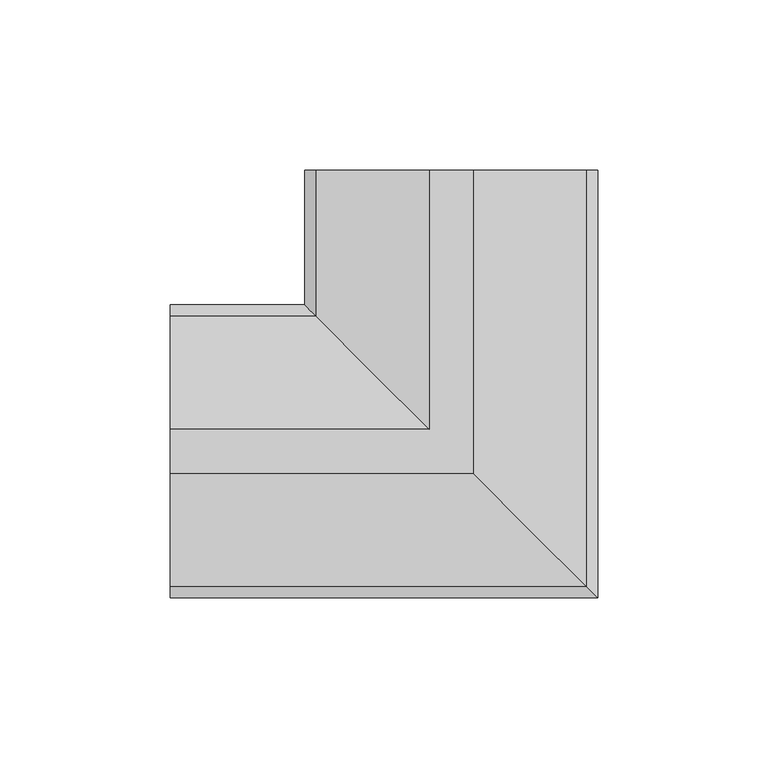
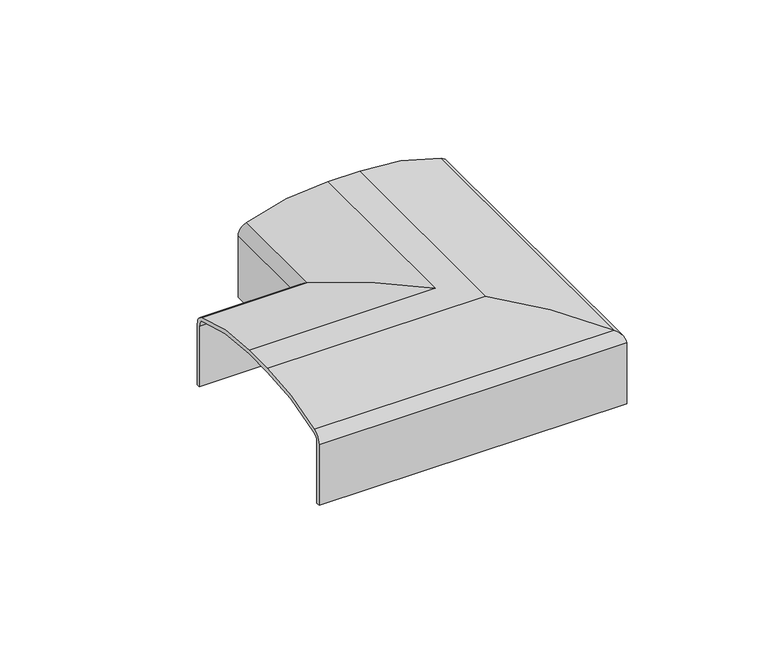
"""IFC4 building model written with IfcOpenShell, lengths in millimetres: proxy geometry, Innore top rail 81x35 corner element : Innore top rail 81x35 element."""

from ifc_helpers import new_model, si_unit, frame, origin, place, context, project, spatial, polyline, circle_curve, ellipse_curve, source, transform, mapped, element, save
from ifc_brep_helpers import plane_surface, cylinder_surface, revolved_surface, advanced_brep


def generic_models_224f447f(model_context):
    return source(origin(), model_context, "Body", "AdvancedBrep", [
        advanced_brep(
        [(43.0005548, 82.500555, -9.2098824), (43.0005548, 82.500555, -35.4217549), (41.5005548, 82.500555, -35.4217549), (41.5005548, 82.500555, -9.2881274), (39.2447947, 82.500555, -6.0167566), (6.5005548, 82.500555, 1e-07), (-6.4994452, 82.500555, 0.0), (-23.1456356, 82.500555, -1.5166706), (-39.223325, 82.500555, -6.0090156), (-41.4994452, 82.500555, -9.3098787), (-41.4994452, 82.500555, -35.4217549), (-42.9994452, 82.500555, -35.4217549), (-42.9994452, 82.500555, -9.2098824), (-39.7769308, 82.500555, -4.5364955), (-6.4994452, 82.500555, 1.5782451), (6.4994452, 82.500555, 1.5782451), (39.7769308, 82.500555, -4.5364955), (-82.4684984, -42.9988902, -9.2098824), (-82.4684984, -39.7763758, -4.5364955), (-82.4684984, -6.4988902, 1.5782451), (-82.4684984, 6.5000001, 1.5782451), (-82.4684984, 39.7774857, -4.5364955), (-82.4684984, 43.0000001, -9.2098824), (-82.4684984, 43.0000001, -35.4217549), (-82.4684984, 41.5000001, -35.4217549), (-82.4684984, 41.5000001, -9.3098787), (-82.4684984, 39.22388, -6.0090156), (-82.4684984, 23.1461903, -1.5166706), (-82.4684984, 6.5000001, 0.0), (-82.4684984, -6.4999999, 0.0), (-82.4684984, -39.2442398, -6.0167566), (-82.4684984, -41.4999999, -9.2881274), (-82.4684984, -41.4999999, -35.4217549), (-82.4684984, -42.9999999, -35.4217549), (43.0005548, -42.9988902, -9.2098824), (43.0005548, -42.9999999, -35.4217549), (41.5005548, -41.4999999, -35.4217549), (41.5005548, -41.4999999, -9.2881274), (39.2447947, -39.2442398, -6.0167566), (6.5005548, -6.4999999, 1e-07), (-6.4994452, 6.5000001, 0.0), (-23.1456356, 23.1461906, -1.5166706), (-39.223325, 39.22388, -6.0090156), (-41.4994452, 41.5000001, -9.3098787), (-41.4994452, 41.5000001, -35.4217549), (-42.9994452, 43.0000001, -35.4217549), (-42.9994452, 43.0000001, -9.2098824), (-39.7769308, 39.7774857, -4.5364955), (-6.4994452, 6.5000001, 1.5782451), (6.4994452, -6.4988902, 1.5782451), (39.7769308, -39.7763758, -4.5364955)],
        [
            (0, 1),
            (1, 2),
            (2, 3),
            (3, 4, circle_curve(frame((38.0005548, 82.500555, -9.2881274), z_axis=(0.0, -1.0, 0.0), x_axis=(1.0, 0.0, 0.0)), 3.5)),
            (4, 5, circle_curve(frame((6.5005548, 82.500555, -92.1083132), z_axis=(0.0, -1.0, 0.0), x_axis=(1.0, 0.0, 0.0)), 92.1083133)),
            (5, 6),
            (6, 7, circle_curve(frame((-6.4994452, 82.500555, -92.1083165), z_axis=(0.0, -1.0, 0.0), x_axis=(1.0, 0.0, 0.0)), 92.1083165)),
            (7, 8, circle_curve(frame((-6.4994452, 82.500555, -92.1083133), z_axis=(0.0, -1.0, 0.0), x_axis=(1.0, 0.0, 0.0)), 92.1083133)),
            (8, 9, circle_curve(frame((-38.3495818, 82.500555, -9.0466922), z_axis=(0.0, -1.0, 0.0), x_axis=(1.0, 0.0, 0.0)), 3.1608395)),
            (9, 10),
            (10, 11),
            (11, 12),
            (12, 13, circle_curve(frame((-37.9994452, 82.500555, -9.2098824), z_axis=(0.0, 1.0, 0.0), x_axis=(1.0, 0.0, 0.0)), 5.0)),
            (13, 14, circle_curve(frame((-6.4994452, 82.500555, -92.0300682), z_axis=(0.0, 1.0, 0.0), x_axis=(1.0, 0.0, 0.0)), 93.6083133)),
            (14, 15),
            (15, 16, circle_curve(frame((6.4994452, 82.500555, -92.0300682), z_axis=(0.0, 1.0, 0.0), x_axis=(1.0, 0.0, 0.0)), 93.6083133)),
            (16, 0, circle_curve(frame((37.9994452, 82.500555, -9.2098824), z_axis=(0.0, 1.0, 0.0), x_axis=(1.0, 0.0, 0.0)), 5.0)),
            (17, 18, circle_curve(frame((-82.4684984, -37.9988902, -9.2098824), z_axis=(-1.0, 0.0, 0.0), x_axis=(0.0, -1.0, 0.0)), 5.0)),
            (18, 19, circle_curve(frame((-82.4684984, -6.4988902, -92.0300682), z_axis=(-1.0, 0.0, 0.0), x_axis=(0.0, -1.0, 0.0)), 93.6083133)),
            (19, 20),
            (20, 21, circle_curve(frame((-82.4684984, 6.5000001, -92.0300682), z_axis=(-1.0, 0.0, 0.0), x_axis=(0.0, -1.0, 0.0)), 93.6083133)),
            (21, 22, circle_curve(frame((-82.4684984, 38.0000001, -9.2098824), z_axis=(-1.0, 0.0, 0.0), x_axis=(0.0, -1.0, 0.0)), 5.0)),
            (22, 23),
            (23, 24),
            (24, 25),
            (25, 26, circle_curve(frame((-82.4684984, 38.3501368, -9.0466922), z_axis=(1.0, 0.0, 0.0), x_axis=(0.0, -1.0, 0.0)), 3.1608395)),
            (26, 27, circle_curve(frame((-82.4684984, 6.5000001, -92.1083133), z_axis=(1.0, 0.0, 0.0), x_axis=(0.0, -1.0, 0.0)), 92.1083133)),
            (27, 28, circle_curve(frame((-82.4684984, 6.5000001, -92.1083165), z_axis=(1.0, 0.0, 0.0), x_axis=(0.0, -1.0, 0.0)), 92.1083165)),
            (28, 29),
            (29, 30, circle_curve(frame((-82.4684984, -6.4999999, -92.1083132), z_axis=(1.0, 0.0, 0.0), x_axis=(0.0, -1.0, 0.0)), 92.1083133)),
            (30, 31, circle_curve(frame((-82.4684984, -37.9999999, -9.2881274), z_axis=(1.0, 0.0, 0.0), x_axis=(0.0, -1.0, 0.0)), 3.5)),
            (31, 32),
            (32, 33),
            (33, 17),
            (0, 34),
            (34, 35),
            (35, 1),
            (35, 33),
            (32, 36),
            (36, 2),
            (36, 37),
            (37, 3),
            (37, 38, ellipse_curve(frame((38.0005548, -37.9999999, -9.2881274), z_axis=(-0.7071067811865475, -0.7071067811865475, 0.0), x_axis=(0.7071067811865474, -0.7071067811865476, 0.0)), 4.9497475, 3.5)),
            (38, 4),
            (38, 39, ellipse_curve(frame((6.5005548, -6.4999999, -92.1083132), z_axis=(-0.7071067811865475, -0.7071067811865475, 0.0), x_axis=(0.7071067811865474, -0.7071067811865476, 0.0)), 130.2608259, 92.1083133)),
            (39, 5),
            (39, 29),
            (28, 40),
            (40, 6),
            (40, 41, ellipse_curve(frame((-6.4994452, 6.5000001, -92.1083165), z_axis=(-0.7071067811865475, -0.7071067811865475, 0.0), x_axis=(0.7071067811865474, -0.7071067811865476, 0.0)), 130.2608304, 92.1083165)),
            (41, 7),
            (41, 42, ellipse_curve(frame((-6.4994452, 6.5000001, -92.1083133), z_axis=(-0.7071067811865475, -0.7071067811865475, 0.0), x_axis=(0.7071067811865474, -0.7071067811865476, 0.0)), 130.2608259, 92.1083133)),
            (42, 8),
            (42, 43, ellipse_curve(frame((-38.3495818, 38.3501368, -9.0466922), z_axis=(-0.7071067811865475, -0.7071067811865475, 0.0), x_axis=(0.7071067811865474, -0.7071067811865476, 0.0)), 4.4701021, 3.1608395)),
            (43, 9),
            (43, 44),
            (44, 10),
            (44, 24),
            (23, 45),
            (45, 11),
            (45, 46),
            (46, 12),
            (46, 47, ellipse_curve(frame((-37.9994452, 38.0000001, -9.2098824), z_axis=(0.7071067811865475, 0.7071067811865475, 0.0), x_axis=(-0.7071067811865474, 0.7071067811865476, 0.0)), 7.0710678, 5.0)),
            (47, 13),
            (47, 48, ellipse_curve(frame((-6.4994452, 6.5000001, -92.0300682), z_axis=(0.7071067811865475, 0.7071067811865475, 0.0), x_axis=(-0.7071067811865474, 0.7071067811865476, 0.0)), 132.3821462, 93.6083133)),
            (48, 14),
            (48, 20),
            (19, 49),
            (49, 15),
            (34, 17),
            (31, 37),
            (30, 38),
            (27, 41),
            (26, 42),
            (25, 43),
            (22, 46),
            (21, 47),
            (16, 50),
            (50, 34, ellipse_curve(frame((37.9994452, -37.9988902, -9.2098824), z_axis=(0.7071067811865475, 0.7071067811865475, 0.0), x_axis=(-0.7071067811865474, 0.7071067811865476, 0.0)), 7.0710678, 5.0)),
            (50, 18),
            (49, 50, ellipse_curve(frame((6.4994452, -6.4988902, -92.0300682), z_axis=(0.7071067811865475, 0.7071067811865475, 0.0), x_axis=(-0.7071067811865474, 0.7071067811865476, 0.0)), 132.3821462, 93.6083133)),
        ],
        [
            plane_surface(frame((0.0, 82.500555, 0.0), z_axis=(0.0, 1.0, 0.0), x_axis=(0.0, 0.0, 1.0))),
            plane_surface(frame((-82.4684984, 0.000555, 0.0), z_axis=(-1.0, 0.0, 0.0), x_axis=(0.0, 0.0, 1.0))),
            plane_surface(frame((43.0005548, 82.500555, -9.2098824), z_axis=(1.0, 0.0, 0.0), x_axis=(0.0, -1.0, 0.0))),
            plane_surface(frame((43.0005548, 82.500555, -35.4217549), z_axis=(0.0, 0.0, -1.0), x_axis=(0.0, -1.0, 0.0))),
            plane_surface(frame((41.5005548, 82.500555, -35.4217549), z_axis=(-1.0, 0.0, 0.0), x_axis=(0.0, -1.0, 0.0))),
            revolved_surface(polyline([(41.5005548, -41.49999992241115, -9.2881274), (41.5005548, 82.500555, -9.2881274)]), (38.0005548, 82.500555, -9.2881274), (0.0, -1.0, 0.0)),
            revolved_surface(polyline([(98.60886810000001, -98.60831321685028, -92.1083132), (98.60886810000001, 85.60831341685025, -92.1083132)]), (6.5005548, 82.500555, -92.1083132), (0.0, -1.0, 0.0)),
            plane_surface(frame((6.5005548, 82.500555, 0.0), z_axis=(0.0, 0.0, -1.0), x_axis=(0.0, -1.0, 0.0))),
            revolved_surface(polyline([(85.6088713, -85.60831639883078, -92.1083165), (85.6088713, 98.60831659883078, -92.1083165)]), (-6.4994452, 82.500555, -92.1083165), (0.0, -1.0, 0.0)),
            revolved_surface(polyline([(85.60886810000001, -85.60831321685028, -92.1083133), (85.60886810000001, 98.60831341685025, -92.1083133)]), (-6.4994452, 82.500555, -92.1083133), (0.0, -1.0, 0.0)),
            revolved_surface(polyline([(-35.1887423, 35.18929729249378, -9.0466922), (-35.1887423, 82.500555, -9.0466922)]), (-38.3495818, 82.500555, -9.0466922), (0.0, -1.0, 0.0)),
            plane_surface(frame((-41.4994452, 82.500555, -9.3098787), z_axis=(1.0, 0.0, 0.0), x_axis=(0.0, -1.0, 0.0))),
            plane_surface(frame((-41.4994452, 82.500555, -35.4217549), z_axis=(0.0, 0.0, -1.0), x_axis=(0.0, -1.0, 0.0))),
            plane_surface(frame((-42.9994452, 82.500555, -35.4217549), z_axis=(-1.0, 0.0, 0.0), x_axis=(0.0, -1.0, 0.0))),
            cylinder_surface(frame((-37.9994452, 82.500555, -9.2098824), z_axis=(0.0, 1.0, 0.0), x_axis=(1.0, 0.0, 0.0)), 5.0),
            cylinder_surface(frame((-6.4994452, 82.500555, -92.0300682), z_axis=(0.0, 1.0, 0.0), x_axis=(1.0, 0.0, 0.0)), 93.6083133),
            plane_surface(frame((-6.4994452, 82.500555, 1.5782451), z_axis=(0.0, 0.0, 1.0), x_axis=(0.0, -1.0, 0.0))),
            plane_surface(frame((43.0005548, -42.9999999, -9.2098824), z_axis=(0.0, -1.0, 0.0), x_axis=(-1.0, 0.0, 0.0))),
            plane_surface(frame((41.5005548, -41.4999999, -35.4217549), z_axis=(0.0, 1.0, 0.0), x_axis=(-1.0, 0.0, 0.0))),
            revolved_surface(polyline([(-82.4684984, -41.4999999, -9.2881274), (41.50055482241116, -41.4999999, -9.2881274)]), (0.0, -37.9999999, -9.2881274), (-1.0, 0.0, 0.0)),
            revolved_surface(polyline([(-85.60775851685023, -98.60831320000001, -92.1083132), (98.60886811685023, -98.60831320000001, -92.1083132)]), (0.0, -6.4999999, -92.1083132), (-1.0, 0.0, 0.0)),
            revolved_surface(polyline([(-98.60776169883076, -85.6083164, -92.1083165), (85.60887129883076, -85.6083164, -92.1083165)]), (0.0, 6.5000001, -92.1083165), (-1.0, 0.0, 0.0)),
            revolved_surface(polyline([(-98.60775851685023, -85.60831320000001, -92.1083133), (85.60886811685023, -85.60831320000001, -92.1083133)]), (0.0, 6.5000001, -92.1083133), (-1.0, 0.0, 0.0)),
            revolved_surface(polyline([(-82.4684984, 35.1892973, -9.0466922), (-35.18874229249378, 35.1892973, -9.0466922)]), (0.0, 38.3501368, -9.0466922), (-1.0, 0.0, 0.0)),
            plane_surface(frame((-41.4994452, 41.5000001, -9.3098787), z_axis=(0.0, -1.0, 0.0), x_axis=(-1.0, 0.0, 0.0))),
            plane_surface(frame((-42.9994452, 43.0000001, -35.4217549), z_axis=(0.0, 1.0, 0.0), x_axis=(-1.0, 0.0, 0.0))),
            cylinder_surface(frame((0.0, 38.0000001, -9.2098824), z_axis=(1.0, 0.0, 0.0), x_axis=(0.0, -1.0, 0.0)), 5.0),
            cylinder_surface(frame((0.0, 6.5000001, -92.0300682), z_axis=(1.0, 0.0, 0.0), x_axis=(0.0, -1.0, 0.0)), 93.6083133),
            cylinder_surface(frame((37.9994452, 82.500555, -9.2098824), z_axis=(0.0, 1.0, 0.0), x_axis=(1.0, 0.0, 0.0)), 5.0),
            cylinder_surface(frame((0.0, -37.9988902, -9.2098824), z_axis=(1.0, 0.0, 0.0), x_axis=(0.0, -1.0, 0.0)), 5.0),
            cylinder_surface(frame((6.4994452, 82.500555, -92.0300682), z_axis=(0.0, 1.0, 0.0), x_axis=(1.0, 0.0, 0.0)), 93.6083133),
            cylinder_surface(frame((0.0, -6.4988902, -92.0300682), z_axis=(1.0, 0.0, 0.0), x_axis=(0.0, -1.0, 0.0)), 93.6083133),
        ],
        [
            (0, [[1, 2, 3, 4, 5, 6, 7, 8, 9, 10, 11, 12, 13, 14, 15, 16, 17]]),
            (1, [[18, 19, 20, 21, 22, 23, 24, 25, 26, 27, 28, 29, 30, 31, 32, 33, 34]]),
            (2, [[-1, 35, 36, 37]]),
            (3, [[-2, -37, 38, -33, 39, 40]]),
            (4, [[-3, -40, 41, 42]]),
            (5, [[-4, -42, 43, 44]]),
            (6, [[-5, -44, 45, 46]]),
            (7, [[-6, -46, 47, -29, 48, 49]]),
            (8, [[-7, -49, 50, 51]]),
            (9, [[-8, -51, 52, 53]]),
            (10, [[-9, -53, 54, 55]]),
            (11, [[-10, -55, 56, 57]]),
            (12, [[-11, -57, 58, -24, 59, 60]]),
            (13, [[-12, -60, 61, 62]]),
            (14, [[-13, -62, 63, 64]]),
            (15, [[-14, -64, 65, 66]]),
            (16, [[-15, -66, 67, -20, 68, 69]]),
            (17, [[-36, 70, -34, -38]]),
            (18, [[-41, -39, -32, 71]]),
            (19, [[-43, -71, -31, 72]]),
            (20, [[-45, -72, -30, -47]]),
            (21, [[-50, -48, -28, 73]]),
            (22, [[-52, -73, -27, 74]]),
            (23, [[-54, -74, -26, 75]]),
            (24, [[-56, -75, -25, -58]]),
            (25, [[-61, -59, -23, 76]]),
            (26, [[-63, -76, -22, 77]]),
            (27, [[-65, -77, -21, -67]]),
            (28, [[-17, 78, 79, -35]]),
            (29, [[-79, 80, -18, -70]]),
            (30, [[-16, -69, 81, -78]]),
            (31, [[-81, -68, -19, -80]]),
        ],
    ),
    ])


if __name__ == "__main__":
    model = new_model("IFC4")
    model_context = context("Model", 3, world=origin())
    ifc_project = project(units=[si_unit("LENGTHUNIT", "METRE", prefix="MILLI")], contexts=[model_context])
    site = spatial("IfcSite", under=ifc_project)
    building = spatial("IfcBuilding", under=site)
    placement = place(None, origin())
    generic_models_shape = generic_models_224f447f(model_context)
    element("IfcBuildingElementProxy", 1, Name="Innore top rail 81x35 corner element : Innore top rail 81x35 element", ObjectType="Innore top rail 81x35 corner element : Innore top rail 81x35 element", at=placement, inside=building, context=model_context, shape_type="MappedRepresentation", body=[
        mapped(generic_models_shape, transform((0.0, 0.0, 0.0), x_axis=(1.0, 0.0, 0.0), y_axis=(0.0, 1.0, 0.0), z_axis=(0.0, 0.0, 1.0))),
    ])
    save(model, "model.ifc")
